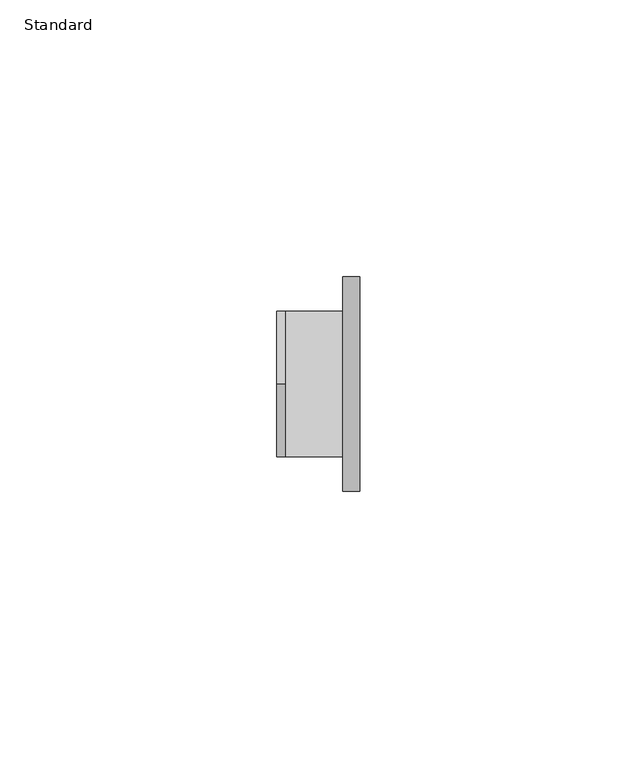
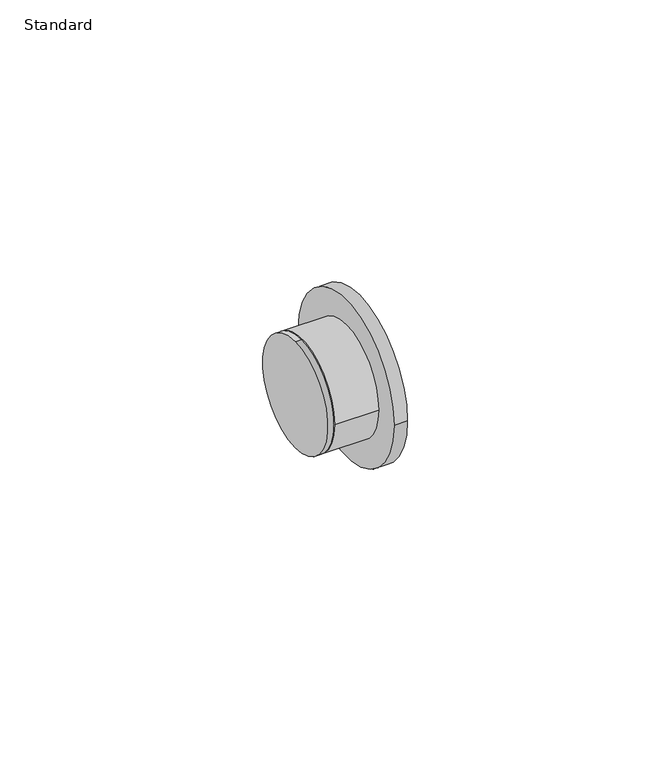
"""IFC4 building model written with IfcOpenShell, lengths in millimetres: pipe fitting geometry, Reducion Bushing_Lubrizol_CPVC_FlowGuard_MX : Standard."""

from ifc_helpers import new_model, si_unit, point, frame, origin, origin_2d, place, context, project, spatial, circle_curve, trimmed, segment, composite_curve, outline, extrude, source, transform, mapped, element, save


def standard_9423981a(model_context):
    return source(origin(), model_context, "Body", "SweptSolid", [
        extrude(outline(composite_curve([segment(trimmed(circle_curve(origin_2d(), 13.11), [point((-13.11, 0.0))], [point((13.11, 0.0))], False, "CARTESIAN"), True, "CONTINUOUS"), segment(trimmed(circle_curve(origin_2d(), 13.11), [point((13.11, 0.0))], [point((-13.11, 0.0))], False, "CARTESIAN"), True, "CONTINUOUS")], self_intersect=False)), frame((1.625, 0.0, 0.0), z_axis=(1.0, 0.0, 0.0), x_axis=(0.0, 1.0, 0.0)), (0.0, 0.0, 1.0), 10.263),
        extrude(outline(composite_curve([segment(trimmed(circle_curve(origin_2d(), 19.35), [point((-19.35, 0.0))], [point((19.35, 0.0))], False, "CARTESIAN"), True, "CONTINUOUS"), segment(trimmed(circle_curve(origin_2d(), 19.35), [point((19.35, 0.0))], [point((-19.35, 0.0))], False, "CARTESIAN"), True, "CONTINUOUS")], self_intersect=False)), frame((11.888, 0.0, 0.0), z_axis=(1.0, 0.0, 0.0), x_axis=(0.0, 1.0, 0.0)), (0.0, 0.0, 1.0), 3.125),
        extrude(outline(composite_curve([segment(trimmed(circle_curve(origin_2d(), 13.11), [point((0.0, 13.11))], [point((0.0, -13.11))], False, "CARTESIAN"), True, "CONTINUOUS"), segment(trimmed(circle_curve(origin_2d(), 13.11), [point((0.0, -13.11))], [point((0.0, 13.11))], False, "CARTESIAN"), True, "CONTINUOUS")], self_intersect=False)), frame((0.0, 0.0, 0.0), z_axis=(1.0, 0.0, 0.0), x_axis=(0.0, 1.0, 0.0)), (0.0, 0.0, 1.0), 1.625),
    ])


if __name__ == "__main__":
    model = new_model("IFC4")
    model_context = context("Model", 3, world=origin())
    ifc_project = project(units=[si_unit("LENGTHUNIT", "METRE", prefix="MILLI")], contexts=[model_context])
    site = spatial("IfcSite", under=ifc_project)
    building = spatial("IfcBuilding", under=site)
    placement = place(None, origin())
    standard_shape = standard_9423981a(model_context)
    element("IfcPipeFitting", 1, ObjectType="Reducion Bushing_Lubrizol_CPVC_FlowGuard_MX : Standard", at=placement, inside=building, context=model_context, shape_type="MappedRepresentation", body=[
        mapped(standard_shape, transform((0.0, 0.0, 0.0), x_axis=(1.0, 0.0, 0.0), y_axis=(0.0, 1.0, 0.0), z_axis=(0.0, 0.0, 1.0))),
    ])
    save(model, "model.ifc")
